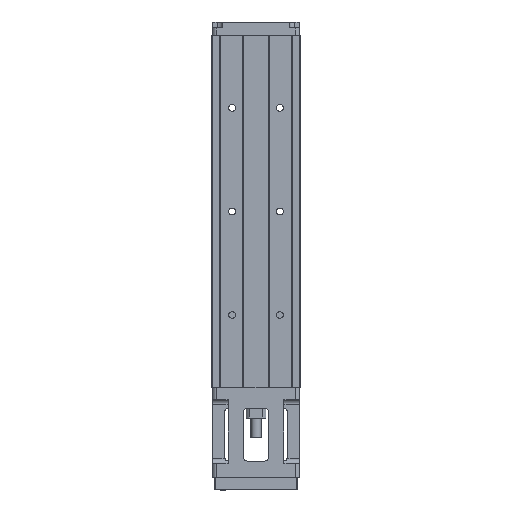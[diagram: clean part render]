
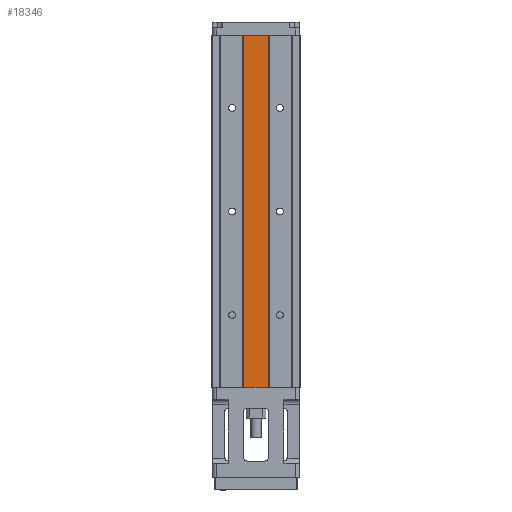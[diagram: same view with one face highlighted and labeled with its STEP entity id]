
A CAD part, front view. The second image highlights one B-rep face of the part: STEP entity #18346.
In plain terms, the highlighted planar face has unit normal (0, -1, 0).
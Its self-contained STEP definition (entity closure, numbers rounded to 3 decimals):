
#505 = LINE ( 'NONE', #2507, #1038 ) ;
#667 = ORIENTED_EDGE ( 'NONE', *, *, #17338, .F. ) ;
#1038 = VECTOR ( 'NONE', #4279, 1000. ) ;
#1138 = ORIENTED_EDGE ( 'NONE', *, *, #20541, .F. ) ;
#1187 = DIRECTION ( 'NONE',  ( 1., 0., 0. ) ) ;
#1329 = VERTEX_POINT ( 'NONE', #16379 ) ;
#1429 = CARTESIAN_POINT ( 'NONE',  ( -12.269, -13.462, 0. ) ) ;
#2210 = VERTEX_POINT ( 'NONE', #18458 ) ;
#2507 = CARTESIAN_POINT ( 'NONE',  ( 11.731, -13.462, 340. ) ) ;
#2684 = PLANE ( 'NONE',  #20140 ) ;
#2739 = FACE_OUTER_BOUND ( 'NONE', #8626, .T. ) ;
#3639 = DIRECTION ( 'NONE',  ( -1., 0., 0. ) ) ;
#4279 = DIRECTION ( 'NONE',  ( 0., 0., -1. ) ) ;
#5016 = VERTEX_POINT ( 'NONE', #16626 ) ;
#6234 = CARTESIAN_POINT ( 'NONE',  ( -12.269, -13.462, 340. ) ) ;
#7575 = VECTOR ( 'NONE', #3639, 1000. ) ;
#7856 = DIRECTION ( 'NONE',  ( 0., 0., 1. ) ) ;
#8112 = LINE ( 'NONE', #12295, #7575 ) ;
#8371 = DIRECTION ( 'NONE',  ( 0., 0., 1. ) ) ;
#8379 = ORIENTED_EDGE ( 'NONE', *, *, #19726, .F. ) ;
#8626 = EDGE_LOOP ( 'NONE', ( #667, #1138, #17739, #8379 ) ) ;
#12295 = CARTESIAN_POINT ( 'NONE',  ( -12.269, -13.462, 0. ) ) ;
#13358 = CARTESIAN_POINT ( 'NONE',  ( -12.269, -13.462, 340. ) ) ;
#14107 = LINE ( 'NONE', #13358, #19605 ) ;
#16379 = CARTESIAN_POINT ( 'NONE',  ( 11.731, -13.462, 0. ) ) ;
#16626 = CARTESIAN_POINT ( 'NONE',  ( 11.731, -13.462, 340. ) ) ;
#17338 = EDGE_CURVE ( 'NONE', #5016, #1329, #505, .T. ) ;
#17739 = ORIENTED_EDGE ( 'NONE', *, *, #19992, .F. ) ;
#18346 = ADVANCED_FACE ( 'NONE', ( #2739 ), #2684, .F. ) ;
#18406 = DIRECTION ( 'NONE',  ( 0., 1., 0. ) ) ;
#18458 = CARTESIAN_POINT ( 'NONE',  ( -12.269, -13.462, 340. ) ) ;
#18934 = VERTEX_POINT ( 'NONE', #1429 ) ;
#19605 = VECTOR ( 'NONE', #8371, 1000. ) ;
#19726 = EDGE_CURVE ( 'NONE', #1329, #18934, #8112, .T. ) ;
#19992 = EDGE_CURVE ( 'NONE', #18934, #2210, #14107, .T. ) ;
#20140 = AXIS2_PLACEMENT_3D ( 'NONE', #6234, #18406, #7856 ) ;
#20541 = EDGE_CURVE ( 'NONE', #2210, #5016, #21481, .T. ) ;
#21481 = LINE ( 'NONE', #22037, #22012 ) ;
#22012 = VECTOR ( 'NONE', #1187, 1000. ) ;
#22037 = CARTESIAN_POINT ( 'NONE',  ( -12.269, -13.462, 340. ) ) ;
